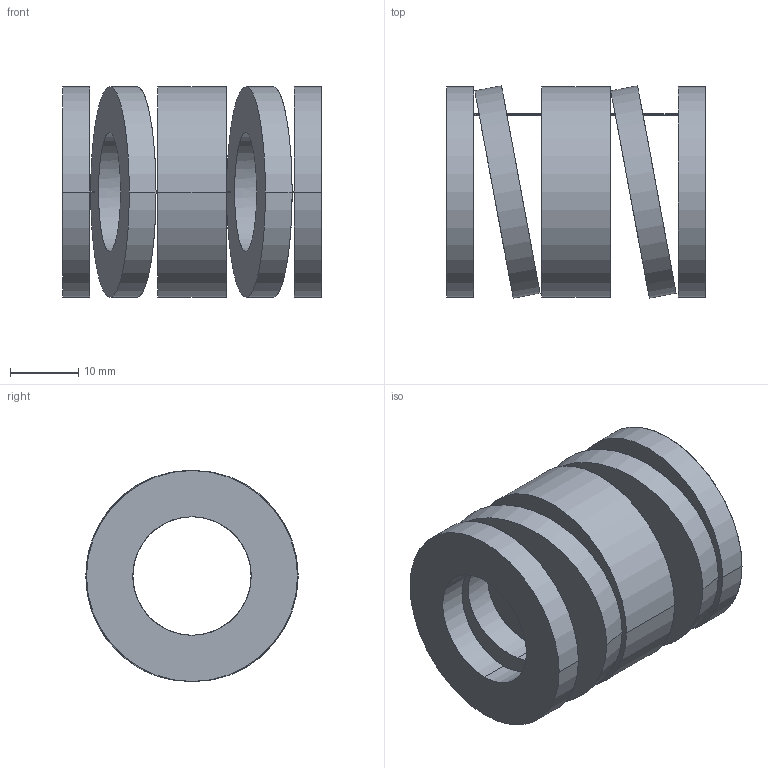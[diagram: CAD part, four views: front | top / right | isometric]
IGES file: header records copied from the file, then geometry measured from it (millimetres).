
Start section: START RECORD GO HERE.
Global section: file name: 392-B32-038.igs; native system: DASSAULT SYSTEMES CATIA V5 R20 - www.3ds.com; preprocessor: CATIA Version 5 Release 20 ; author: Utente; organization: NB04-ASUS; date: 20210813.121218; units: millimetre
Bounding box: 38 x 31.21 x 31 mm (x, y, z)
Surface area: 9121.6 mm2 (no closed solid volume)
Topology: 0 solids, 0 shells, 38 faces, 184 edges, 184 vertices
Faces by surface type: revolution 28, plane 10
